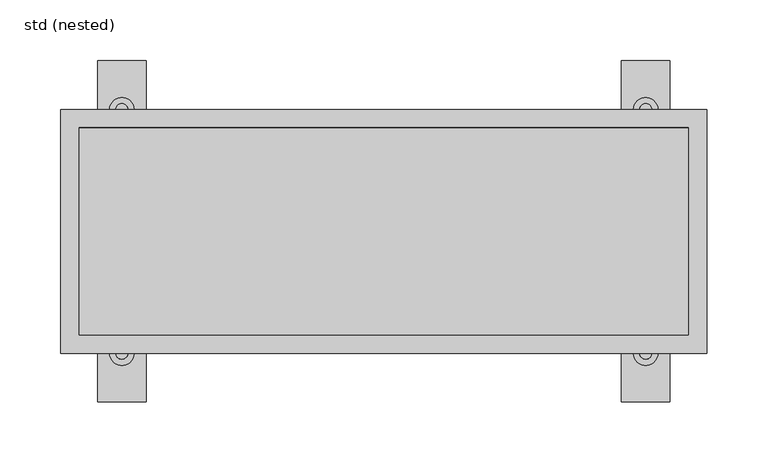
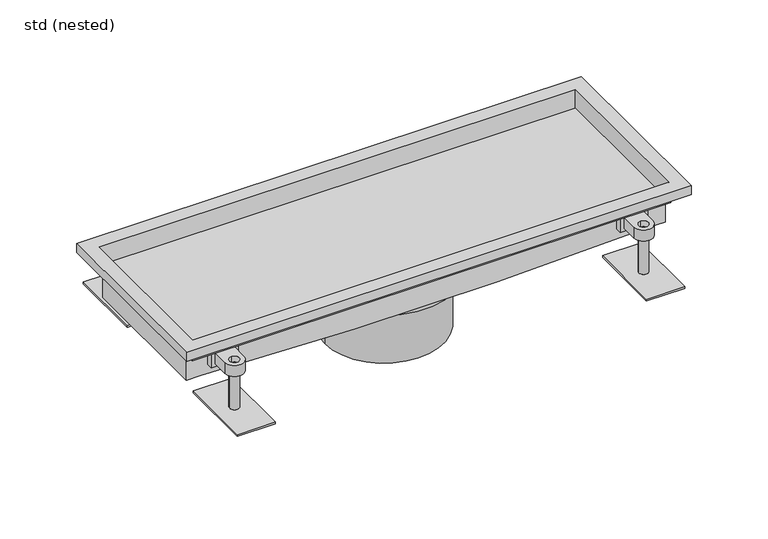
"""IFC4 building model written with IfcOpenShell, lengths in millimetres: sanitary terminal geometry, ZZZ_do not use_PF_ST_UN_custom hygienic box channel_ACO : std (nested)."""

from ifc_helpers import new_model, si_unit, point, frame, frame_2d, origin, place, context, project, spatial, polyline, circle_curve, trimmed, segment, composite_curve, outline, extrude, faceted_brep, source, transform, mapped, element, save
from ifc_brep_helpers import plane_surface, cylinder_surface, advanced_brep


def std_nested_e3c334fa(model_context):
    return source(origin(), model_context, "Body", "SolidModel", [
        extrude(outline(composite_curve([segment(polyline([(225.0, 82.5), (205.0, 82.5), (205.0, 100.0)]), True, "CONTINUOUS"), segment(trimmed(circle_curve(frame_2d((215.0, 100.0)), 10.0), [point((205.0, 100.0))], [point((225.0, 100.0))], False, "CARTESIAN"), True, "CONTINUOUS"), segment(polyline([(225.0, 100.0), (225.0, 82.5)]), True, "CONTINUOUS")], self_intersect=False), holes=[composite_curve([segment(trimmed(circle_curve(frame_2d((215.0, 100.0)), 5.0), [point((215.0, 95.0))], [point((215.0, 105.0))], True, "CARTESIAN"), True, "CONTINUOUS"), segment(trimmed(circle_curve(frame_2d((215.0, 100.0)), 5.0), [point((215.0, 105.0))], [point((215.0, 95.0))], True, "CARTESIAN"), True, "CONTINUOUS")], self_intersect=False)]), frame((0.0, 0.0, -37.0), z_axis=(0.0, 0.0, 1.0), x_axis=(1.0, 0.0, 0.0)), (0.0, 0.0, 1.0), 12.0),
        advanced_brep(
        [(210.0, 100.0, -31.0), (220.0, 100.0, -31.0), (235.0, 60.0, -79.5), (195.0, 60.0, -79.5), (195.0, 140.0, -79.5), (235.0, 140.0, -79.5), (220.0, 100.0, -77.5), (210.0, 100.0, -77.5), (235.0, 60.0, -77.5), (235.0, 140.0, -77.5), (195.0, 140.0, -77.5), (195.0, 60.0, -77.5)],
        [
            (0, 1, circle_curve(frame((215.0, 100.0, -31.0), z_axis=(0.0, 0.0, 1.0), x_axis=(1.0, 0.0, 0.0)), 5.0)),
            (1, 0, circle_curve(frame((215.0, 100.0, -31.0), z_axis=(0.0, 0.0, 1.0), x_axis=(1.0, 0.0, 0.0)), 5.0)),
            (2, 3),
            (3, 4),
            (4, 5),
            (5, 2),
            (1, 6),
            (6, 7, circle_curve(frame((215.0, 100.0, -77.5), z_axis=(0.0, 0.0, 1.0), x_axis=(1.0, 0.0, 0.0)), 5.0)),
            (7, 0),
            (7, 6, circle_curve(frame((215.0, 100.0, -77.5), z_axis=(0.0, 0.0, 1.0), x_axis=(1.0, 0.0, 0.0)), 5.0)),
            (8, 9),
            (9, 10),
            (10, 11),
            (11, 8),
            (11, 3),
            (2, 8),
            (10, 4),
            (9, 5),
        ],
        [
            plane_surface(frame((220.0, 100.0, -31.0), z_axis=(0.0, 0.0, 1.0), x_axis=(0.0, -1.0, 0.0))),
            plane_surface(frame((220.0, 100.0, -79.5), z_axis=(0.0, 0.0, -1.0), x_axis=(0.0, 1.0, 0.0))),
            cylinder_surface(frame((215.0, 100.0, -79.5), z_axis=(0.0, 0.0, 1.0), x_axis=(1.0, 0.0, 0.0)), 5.0),
            plane_surface(frame((195.0, 60.0, -77.5), z_axis=(0.0, 0.0, 1.0), x_axis=(-1.0, 0.0, 0.0))),
            plane_surface(frame((235.0, 60.0, -77.5), z_axis=(0.0, -1.0, 0.0), x_axis=(0.0, 0.0, -1.0))),
            plane_surface(frame((195.0, 60.0, -77.5), z_axis=(-1.0, 0.0, 0.0), x_axis=(0.0, 0.0, -1.0))),
            plane_surface(frame((195.0, 140.0, -77.5), z_axis=(0.0, 1.0, 0.0), x_axis=(0.0, 0.0, -1.0))),
            plane_surface(frame((235.0, 140.0, -77.5), z_axis=(1.0, 0.0, 0.0), x_axis=(0.0, 0.0, -1.0))),
        ],
        [
            (0, [[1, 2]]),
            (1, [[3, 4, 5, 6]]),
            (2, [[7, 8, 9, -2]]),
            (2, [[-9, 10, -7, -1]]),
            (3, [[11, 12, 13, 14], [-10, -8]]),
            (4, [[15, -3, 16, -14]]),
            (5, [[17, -4, -15, -13]]),
            (6, [[18, -5, -17, -12]]),
            (7, [[-16, -6, -18, -11]]),
        ],
    ),
        extrude(outline(polyline([(229.35, 74.5), (200.65, 74.5), (200.65, 82.5), (229.35, 82.5), (229.35, 74.5)])), frame((0.0, 0.0, -40.0), z_axis=(0.0, 0.0, 1.0), x_axis=(1.0, 0.0, 0.0)), (0.0, 0.0, 1.0), 18.0),
        extrude(outline(composite_curve([segment(polyline([(225.0, -82.5), (225.0, -100.0)]), True, "CONTINUOUS"), segment(trimmed(circle_curve(frame_2d((215.0, -100.0)), 10.0), [point((225.0, -100.0))], [point((205.0, -100.0))], False, "CARTESIAN"), True, "CONTINUOUS"), segment(polyline([(205.0, -100.0), (205.0, -82.5), (225.0, -82.5)]), True, "CONTINUOUS")], self_intersect=False), holes=[composite_curve([segment(trimmed(circle_curve(frame_2d((215.0, -100.0)), 5.0), [point((215.0, -95.0))], [point((215.0, -105.0))], True, "CARTESIAN"), True, "CONTINUOUS"), segment(trimmed(circle_curve(frame_2d((215.0, -100.0)), 5.0), [point((215.0, -105.0))], [point((215.0, -95.0))], True, "CARTESIAN"), True, "CONTINUOUS")], self_intersect=False)]), frame((0.0, 0.0, -37.0), z_axis=(0.0, 0.0, 1.0), x_axis=(1.0, 0.0, 0.0)), (0.0, 0.0, 1.0), 12.0),
        advanced_brep(
        [(210.0, -100.0, -31.0), (220.0, -100.0, -31.0), (235.0, -60.0, -79.5), (235.0, -140.0, -79.5), (195.0, -140.0, -79.5), (195.0, -60.0, -79.5), (210.0, -100.0, -77.5), (220.0, -100.0, -77.5), (235.0, -60.0, -77.5), (195.0, -60.0, -77.5), (195.0, -140.0, -77.5), (235.0, -140.0, -77.5)],
        [
            (0, 1, circle_curve(frame((215.0, -100.0, -31.0), z_axis=(0.0, 0.0, 1.0), x_axis=(1.0, 0.0, 0.0)), 5.0)),
            (1, 0, circle_curve(frame((215.0, -100.0, -31.0), z_axis=(0.0, 0.0, 1.0), x_axis=(1.0, 0.0, 0.0)), 5.0)),
            (2, 3),
            (3, 4),
            (4, 5),
            (5, 2),
            (0, 6),
            (6, 7, circle_curve(frame((215.0, -100.0, -77.5), z_axis=(0.0, 0.0, 1.0), x_axis=(1.0, 0.0, 0.0)), 5.0)),
            (7, 1),
            (7, 6, circle_curve(frame((215.0, -100.0, -77.5), z_axis=(0.0, 0.0, 1.0), x_axis=(1.0, 0.0, 0.0)), 5.0)),
            (8, 9),
            (9, 10),
            (10, 11),
            (11, 8),
            (8, 2),
            (5, 9),
            (4, 10),
            (3, 11),
        ],
        [
            plane_surface(frame((220.0, -100.0, -31.0), z_axis=(0.0, 0.0, 1.0), x_axis=(0.0, 1.0, 0.0))),
            plane_surface(frame((220.0, -100.0, -79.5), z_axis=(0.0, 0.0, -1.0), x_axis=(0.0, -1.0, 0.0))),
            cylinder_surface(frame((215.0, -100.0, -79.5), z_axis=(0.0, 0.0, 1.0), x_axis=(1.0, 0.0, 0.0)), 5.0),
            plane_surface(frame((195.0, -60.0, -77.5), z_axis=(0.0, 0.0, 1.0), x_axis=(-1.0, 0.0, 0.0))),
            plane_surface(frame((235.0, -60.0, -77.5), z_axis=(0.0, 1.0, 0.0), x_axis=(0.0, 0.0, -1.0))),
            plane_surface(frame((195.0, -60.0, -77.5), z_axis=(-1.0, 0.0, 0.0), x_axis=(0.0, 0.0, -1.0))),
            plane_surface(frame((195.0, -140.0, -77.5), z_axis=(0.0, -1.0, 0.0), x_axis=(0.0, 0.0, -1.0))),
            plane_surface(frame((235.0, -140.0, -77.5), z_axis=(1.0, 0.0, 0.0), x_axis=(0.0, 0.0, -1.0))),
        ],
        [
            (0, [[1, 2]]),
            (1, [[3, 4, 5, 6]]),
            (2, [[-1, 7, 8, 9]]),
            (2, [[-2, -9, 10, -7]]),
            (3, [[11, 12, 13, 14], [-8, -10]]),
            (4, [[-11, 15, -6, 16]]),
            (5, [[-12, -16, -5, 17]]),
            (6, [[-13, -17, -4, 18]]),
            (7, [[-14, -18, -3, -15]]),
        ],
    ),
        extrude(outline(polyline([(229.35, -74.5), (229.35, -82.5), (200.65, -82.5), (200.65, -74.5), (229.35, -74.5)])), frame((0.0, 0.0, -40.0), z_axis=(0.0, 0.0, 1.0), x_axis=(1.0, 0.0, 0.0)), (0.0, 0.0, 1.0), 18.0),
        extrude(outline(composite_curve([segment(polyline([(-205.0, 82.5), (-225.0, 82.5), (-225.0, 100.0)]), True, "CONTINUOUS"), segment(trimmed(circle_curve(frame_2d((-215.0, 100.0)), 10.0), [point((-225.0, 100.0))], [point((-205.0, 100.0))], False, "CARTESIAN"), True, "CONTINUOUS"), segment(polyline([(-205.0, 100.0), (-205.0, 82.5)]), True, "CONTINUOUS")], self_intersect=False), holes=[composite_curve([segment(trimmed(circle_curve(frame_2d((-215.0, 100.0)), 5.0), [point((-215.0, 95.0))], [point((-215.0, 105.0))], True, "CARTESIAN"), True, "CONTINUOUS"), segment(trimmed(circle_curve(frame_2d((-215.0, 100.0)), 5.0), [point((-215.0, 105.0))], [point((-215.0, 95.0))], True, "CARTESIAN"), True, "CONTINUOUS")], self_intersect=False)]), frame((0.0, 0.0, -37.0), z_axis=(0.0, 0.0, 1.0), x_axis=(1.0, 0.0, 0.0)), (0.0, 0.0, 1.0), 12.0),
        advanced_brep(
        [(-220.0, 100.0, -31.0), (-210.0, 100.0, -31.0), (-195.0, 60.0, -79.5), (-235.0, 60.0, -79.5), (-235.0, 140.0, -79.5), (-195.0, 140.0, -79.5), (-210.0, 100.0, -77.5), (-220.0, 100.0, -77.5), (-195.0, 60.0, -77.5), (-195.0, 140.0, -77.5), (-235.0, 140.0, -77.5), (-235.0, 60.0, -77.5)],
        [
            (0, 1, circle_curve(frame((-215.0, 100.0, -31.0), z_axis=(0.0, 0.0, 1.0), x_axis=(1.0, 0.0, 0.0)), 5.0)),
            (1, 0, circle_curve(frame((-215.0, 100.0, -31.0), z_axis=(0.0, 0.0, 1.0), x_axis=(1.0, 0.0, 0.0)), 5.0)),
            (2, 3),
            (3, 4),
            (4, 5),
            (5, 2),
            (1, 6),
            (6, 7, circle_curve(frame((-215.0, 100.0, -77.5), z_axis=(0.0, 0.0, 1.0), x_axis=(1.0, 0.0, 0.0)), 5.0)),
            (7, 0),
            (7, 6, circle_curve(frame((-215.0, 100.0, -77.5), z_axis=(0.0, 0.0, 1.0), x_axis=(1.0, 0.0, 0.0)), 5.0)),
            (8, 9),
            (9, 10),
            (10, 11),
            (11, 8),
            (11, 3),
            (2, 8),
            (10, 4),
            (9, 5),
        ],
        [
            plane_surface(frame((-210.0, 100.0, -31.0), z_axis=(0.0, 0.0, 1.0), x_axis=(0.0, -1.0, 0.0))),
            plane_surface(frame((-210.0, 100.0, -79.5), z_axis=(0.0, 0.0, -1.0), x_axis=(0.0, 1.0, 0.0))),
            cylinder_surface(frame((-215.0, 100.0, -79.5), z_axis=(0.0, 0.0, 1.0), x_axis=(1.0, 0.0, 0.0)), 5.0),
            plane_surface(frame((-235.0, 60.0, -77.5), z_axis=(0.0, 0.0, 1.0), x_axis=(-1.0, 0.0, 0.0))),
            plane_surface(frame((-195.0, 60.0, -77.5), z_axis=(0.0, -1.0, 0.0), x_axis=(0.0, 0.0, -1.0))),
            plane_surface(frame((-235.0, 60.0, -77.5), z_axis=(-1.0, 0.0, 0.0), x_axis=(0.0, 0.0, -1.0))),
            plane_surface(frame((-235.0, 140.0, -77.5), z_axis=(0.0, 1.0, 0.0), x_axis=(0.0, 0.0, -1.0))),
            plane_surface(frame((-195.0, 140.0, -77.5), z_axis=(1.0, 0.0, 0.0), x_axis=(0.0, 0.0, -1.0))),
        ],
        [
            (0, [[1, 2]]),
            (1, [[3, 4, 5, 6]]),
            (2, [[7, 8, 9, -2]]),
            (2, [[-9, 10, -7, -1]]),
            (3, [[11, 12, 13, 14], [-10, -8]]),
            (4, [[15, -3, 16, -14]]),
            (5, [[17, -4, -15, -13]]),
            (6, [[18, -5, -17, -12]]),
            (7, [[-16, -6, -18, -11]]),
        ],
    ),
        extrude(outline(polyline([(-200.65, 74.5), (-229.35, 74.5), (-229.35, 82.5), (-200.65, 82.5), (-200.65, 74.5)])), frame((0.0, 0.0, -40.0), z_axis=(0.0, 0.0, 1.0), x_axis=(1.0, 0.0, 0.0)), (0.0, 0.0, 1.0), 18.0),
        extrude(outline(composite_curve([segment(polyline([(-205.0, -82.5), (-205.0, -100.0)]), True, "CONTINUOUS"), segment(trimmed(circle_curve(frame_2d((-215.0, -100.0)), 10.0), [point((-205.0, -100.0))], [point((-225.0, -100.0))], False, "CARTESIAN"), True, "CONTINUOUS"), segment(polyline([(-225.0, -100.0), (-225.0, -82.5), (-205.0, -82.5)]), True, "CONTINUOUS")], self_intersect=False), holes=[composite_curve([segment(trimmed(circle_curve(frame_2d((-215.0, -100.0)), 5.0), [point((-215.0, -95.0))], [point((-215.0, -105.0))], True, "CARTESIAN"), True, "CONTINUOUS"), segment(trimmed(circle_curve(frame_2d((-215.0, -100.0)), 5.0), [point((-215.0, -105.0))], [point((-215.0, -95.0))], True, "CARTESIAN"), True, "CONTINUOUS")], self_intersect=False)]), frame((0.0, 0.0, -37.0), z_axis=(0.0, 0.0, 1.0), x_axis=(1.0, 0.0, 0.0)), (0.0, 0.0, 1.0), 12.0),
        advanced_brep(
        [(-220.0, -100.0, -31.0), (-210.0, -100.0, -31.0), (-195.0, -60.0, -79.5), (-195.0, -140.0, -79.5), (-235.0, -140.0, -79.5), (-235.0, -60.0, -79.5), (-220.0, -100.0, -77.5), (-210.0, -100.0, -77.5), (-195.0, -60.0, -77.5), (-235.0, -60.0, -77.5), (-235.0, -140.0, -77.5), (-195.0, -140.0, -77.5)],
        [
            (0, 1, circle_curve(frame((-215.0, -100.0, -31.0), z_axis=(0.0, 0.0, 1.0), x_axis=(1.0, 0.0, 0.0)), 5.0)),
            (1, 0, circle_curve(frame((-215.0, -100.0, -31.0), z_axis=(0.0, 0.0, 1.0), x_axis=(1.0, 0.0, 0.0)), 5.0)),
            (2, 3),
            (3, 4),
            (4, 5),
            (5, 2),
            (0, 6),
            (6, 7, circle_curve(frame((-215.0, -100.0, -77.5), z_axis=(0.0, 0.0, 1.0), x_axis=(1.0, 0.0, 0.0)), 5.0)),
            (7, 1),
            (7, 6, circle_curve(frame((-215.0, -100.0, -77.5), z_axis=(0.0, 0.0, 1.0), x_axis=(1.0, 0.0, 0.0)), 5.0)),
            (8, 9),
            (9, 10),
            (10, 11),
            (11, 8),
            (8, 2),
            (5, 9),
            (4, 10),
            (3, 11),
        ],
        [
            plane_surface(frame((-210.0, -100.0, -31.0), z_axis=(0.0, 0.0, 1.0), x_axis=(0.0, 1.0, 0.0))),
            plane_surface(frame((-210.0, -100.0, -79.5), z_axis=(0.0, 0.0, -1.0), x_axis=(0.0, -1.0, 0.0))),
            cylinder_surface(frame((-215.0, -100.0, -79.5), z_axis=(0.0, 0.0, 1.0), x_axis=(1.0, 0.0, 0.0)), 5.0),
            plane_surface(frame((-235.0, -60.0, -77.5), z_axis=(0.0, 0.0, 1.0), x_axis=(-1.0, 0.0, 0.0))),
            plane_surface(frame((-195.0, -60.0, -77.5), z_axis=(0.0, 1.0, 0.0), x_axis=(0.0, 0.0, -1.0))),
            plane_surface(frame((-235.0, -60.0, -77.5), z_axis=(-1.0, 0.0, 0.0), x_axis=(0.0, 0.0, -1.0))),
            plane_surface(frame((-235.0, -140.0, -77.5), z_axis=(0.0, -1.0, 0.0), x_axis=(0.0, 0.0, -1.0))),
            plane_surface(frame((-195.0, -140.0, -77.5), z_axis=(1.0, 0.0, 0.0), x_axis=(0.0, 0.0, -1.0))),
        ],
        [
            (0, [[1, 2]]),
            (1, [[3, 4, 5, 6]]),
            (2, [[-1, 7, 8, 9]]),
            (2, [[-2, -9, 10, -7]]),
            (3, [[11, 12, 13, 14], [-8, -10]]),
            (4, [[-11, 15, -6, 16]]),
            (5, [[-12, -16, -5, 17]]),
            (6, [[-13, -17, -4, 18]]),
            (7, [[-14, -18, -3, -15]]),
        ],
    ),
        extrude(outline(polyline([(-200.65, -74.5), (-200.65, -82.5), (-229.35, -82.5), (-229.35, -74.5), (-200.65, -74.5)])), frame((0.0, 0.0, -40.0), z_axis=(0.0, 0.0, 1.0), x_axis=(1.0, 0.0, 0.0)), (0.0, 0.0, 1.0), 18.0),
        faceted_brep([(-250.0, 85.0, -22.0), (-250.0, 85.0, -20.5), (250.0, 85.0, -20.5), (250.0, 85.0, -22.0), (-250.0, -85.0, -20.5), (250.0, -85.0, -20.5), (-250.0, -85.0, -22.0), (250.0, -85.0, -22.0), (-250.0, -76.0, -22.0), (250.0, -76.0, -22.0), (250.0, 76.0, -22.0), (-250.0, 76.0, -22.0), (74.5, -76.0, -55.0), (236.5, -76.0, -50.0), (251.5, -76.0, -50.0), (251.5, -76.0, -22.0), (-251.5, -76.0, -22.0), (-251.5, -76.0, -50.0), (-236.5, -76.0, -50.0), (-74.5, -76.0, -55.0), (74.5, 76.0, -55.0), (236.5, 76.0, -50.0), (-74.5, 76.0, -55.0), (-236.5, 76.0, -50.0), (-251.5, 76.0, -50.0), (-251.5, 76.0, -22.0), (251.5, 76.0, -22.0), (251.5, 76.0, -50.0)], [[[0, 1, 2, 3]], [[1, 4, 5, 2]], [[4, 6, 7, 5]], [[6, 8, 9, 7]], [[10, 11, 0, 3]], [[12, 13, 14, 15, 9, 8, 16, 17, 18, 19]], [[13, 12, 20, 21]], [[21, 20, 22, 23, 24, 25, 11, 10, 26, 27]], [[22, 20, 12, 19]], [[19, 18, 23, 22]], [[24, 17, 16, 25]], [[25, 16, 8, 11]], [[17, 24, 23, 18]], [[4, 1, 0, 11, 8, 6]], [[5, 7, 9, 10, 3, 2]], [[26, 15, 14, 27]], [[15, 26, 10, 9]], [[27, 14, 13, 21]]]),
        advanced_brep(
        [(-62.5, 0.0, -121.5), (62.5, 0.0, -121.5), (0.0, 0.0, -121.5), (-62.5, 0.0, -60.0), (62.5, 0.0, -60.0), (-74.5, 0.0, -60.0), (74.5, 0.0, -60.0), (-74.5, 0.0, -55.0), (74.5, 0.0, -55.0), (0.0, 0.0, -55.0)],
        [
            (0, 1, circle_curve(frame((0.0, 0.0, -121.5), z_axis=(0.0, 0.0, -1.0), x_axis=(1.0, 0.0, 0.0)), 62.5)),
            (1, 2),
            (2, 0),
            (1, 0, circle_curve(frame((0.0, 0.0, -121.5), z_axis=(0.0, 0.0, -1.0), x_axis=(1.0, 0.0, 0.0)), 62.5)),
            (3, 4, circle_curve(frame((0.0, 0.0, -60.0), z_axis=(0.0, 0.0, -1.0), x_axis=(1.0, 0.0, 0.0)), 62.5)),
            (4, 1),
            (0, 3),
            (4, 3, circle_curve(frame((0.0, 0.0, -60.0), z_axis=(0.0, 0.0, -1.0), x_axis=(1.0, 0.0, 0.0)), 62.5)),
            (5, 6, circle_curve(frame((0.0, 0.0, -60.0), z_axis=(0.0, 0.0, -1.0), x_axis=(1.0, 0.0, 0.0)), 74.5)),
            (6, 4),
            (3, 5),
            (6, 5, circle_curve(frame((0.0, 0.0, -60.0), z_axis=(0.0, 0.0, -1.0), x_axis=(1.0, 0.0, 0.0)), 74.5)),
            (7, 8, circle_curve(frame((0.0, 0.0, -55.0), z_axis=(0.0, 0.0, -1.0), x_axis=(1.0, 0.0, 0.0)), 74.5)),
            (8, 6),
            (5, 7),
            (8, 7, circle_curve(frame((0.0, 0.0, -55.0), z_axis=(0.0, 0.0, -1.0), x_axis=(1.0, 0.0, 0.0)), 74.5)),
            (9, 8),
            (7, 9),
        ],
        [
            plane_surface(frame((0.0, 0.0, -121.5), z_axis=(0.0, 0.0, -1.0), x_axis=(1.0, 0.0, 0.0))),
            cylinder_surface(frame((0.0, 0.0, -130.0), z_axis=(0.0, 0.0, 1.0), x_axis=(1.0, 0.0, 0.0)), 62.5),
            plane_surface(frame((0.0, 0.0, -60.0), z_axis=(0.0, 0.0, -1.0), x_axis=(1.0, 0.0, 0.0))),
            cylinder_surface(frame((0.0, 0.0, -130.0), z_axis=(0.0, 0.0, 1.0), x_axis=(1.0, 0.0, 0.0)), 74.5),
            plane_surface(frame((0.0, 0.0, -55.0), z_axis=(0.0, 0.0, 1.0), x_axis=(1.0, 0.0, 0.0))),
        ],
        [
            (0, [[1, 2, 3]]),
            (0, [[4, -3, -2]]),
            (1, [[5, 6, -1, 7]]),
            (1, [[8, -7, -4, -6]]),
            (2, [[9, 10, -5, 11]]),
            (2, [[12, -11, -8, -10]]),
            (3, [[13, 14, -9, 15]]),
            (3, [[16, -15, -12, -14]]),
            (4, [[17, -13, 18]]),
            (4, [[-18, -16, -17]]),
        ],
    ),
        faceted_brep([(265.0, 100.0, -10.0), (265.0, 100.0, 0.0), (265.0, -100.0, 0.0), (265.0, -100.0, -10.0), (251.5, 86.5, -22.0), (251.5, 86.5, -1.5), (251.5, -86.5, -1.5), (251.5, -86.5, -22.0), (250.0, 85.0, 0.0), (250.0, 85.0, -22.0), (250.0, -85.0, -22.0), (250.0, -85.0, 0.0), (-265.0, -100.0, 0.0), (-265.0, -100.0, -10.0), (-251.5, -86.5, -1.5), (-251.5, -86.5, -22.0), (-250.0, -85.0, -22.0), (-250.0, -85.0, 0.0), (-265.0, 100.0, 0.0), (-265.0, 100.0, -10.0), (-251.5, 86.5, -1.5), (-251.5, 86.5, -22.0), (-250.0, 85.0, -22.0), (-250.0, 85.0, 0.0), (263.5, 98.5, -10.0), (-263.5, 98.5, -10.0), (-263.5, -98.5, -10.0), (263.5, -98.5, -10.0), (263.5, 98.5, -1.5), (263.5, -98.5, -1.5), (-263.5, -98.5, -1.5), (-263.5, 98.5, -1.5)], [[[0, 1, 2, 3]], [[4, 5, 6, 7]], [[8, 9, 10, 11]], [[3, 2, 12, 13]], [[7, 6, 14, 15]], [[11, 10, 16, 17]], [[13, 12, 18, 19]], [[15, 14, 20, 21]], [[17, 16, 22, 23]], [[19, 18, 1, 0]], [[3, 13, 19, 0], [24, 25, 26, 27]], [[21, 20, 5, 4]], [[7, 15, 21, 4], [9, 22, 16, 10]], [[23, 22, 9, 8]], [[1, 18, 12, 2], [11, 17, 23, 8]], [[28, 24, 27, 29]], [[29, 27, 26, 30]], [[30, 26, 25, 31]], [[31, 25, 24, 28]], [[29, 30, 31, 28], [5, 20, 14, 6]]]),
    ])


if __name__ == "__main__":
    model = new_model("IFC4")
    model_context = context("Model", 3, world=origin())
    ifc_project = project(units=[si_unit("LENGTHUNIT", "METRE", prefix="MILLI")], contexts=[model_context])
    site = spatial("IfcSite", under=ifc_project)
    building = spatial("IfcBuilding", under=site)
    placement = place(None, origin())
    std_nested_shape = std_nested_e3c334fa(model_context)
    element("IfcSanitaryTerminal", 1, ObjectType="ZZZ_do not use_PF_ST_UN_custom hygienic box channel_ACO : std (nested)", at=placement, inside=building, context=model_context, shape_type="MappedRepresentation", body=[
        mapped(std_nested_shape, transform((0.0, 0.0, 0.0), x_axis=(1.0, 0.0, 0.0), y_axis=(0.0, 1.0, 0.0), z_axis=(0.0, 0.0, 1.0))),
    ])
    save(model, "model.ifc")
